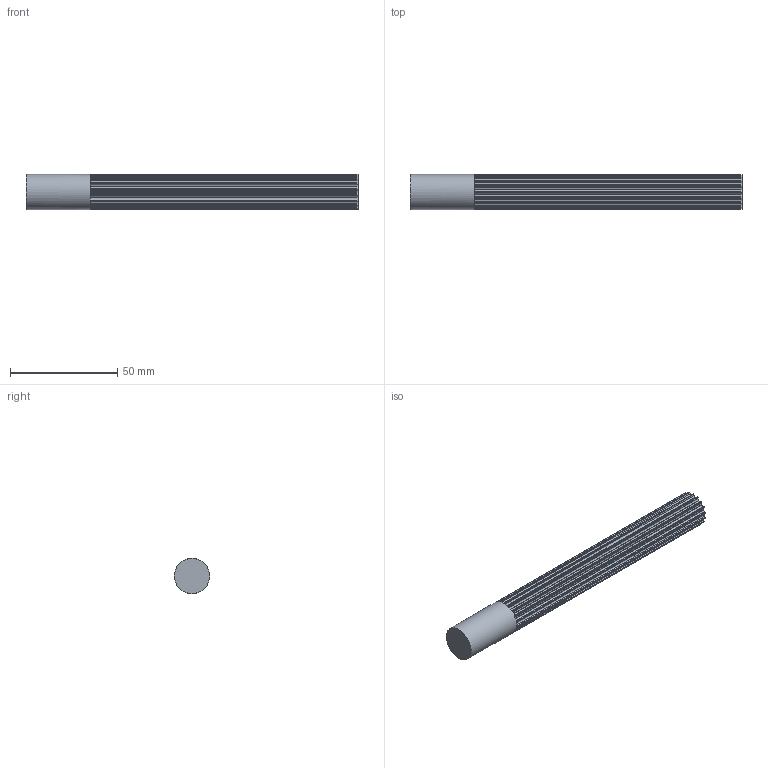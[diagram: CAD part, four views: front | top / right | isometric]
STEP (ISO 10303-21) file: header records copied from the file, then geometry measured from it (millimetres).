
FILE_DESCRIPTION( ( 'STEP AP214' ), '1' );
FILE_NAME( 'C:/Users/StangenbergN/Desktop/Steps Zahnriemenräder/K166_HTD-Zahnwellen/17091800.stp', '2019-06-06T09:33:42', ( '' ), ( '' ), ' ', 'PARTsolutions', ' ' );
FILE_SCHEMA( ( 'AUTOMOTIVE_DESIGN { 1 0 10303 214 1 1 1 1 }' ) );
Length unit declared in the file: millimetre
Products named in the file (1): _17091800
Bounding box: 155 x 16.43 x 16.43 mm (x, y, z)
Volume: 28172.3 mm3; surface area: 10727.8 mm2
Topology: 1 solids, 1 shells, 147 faces, 435 edges, 290 vertices
Faces by surface type: plane 74, cylinder 73
Full cylindrical faces by diameter (mm): 16.43 x1
Entity records: 6168 total; most frequent: DIRECTION 910, CARTESIAN_POINT 870, ORIENTED_EDGE 866, EDGE_CURVE 433, AXIS2_PLACEMENT_3D 329, VERTEX_POINT 289, LINE 252, VECTOR 252
